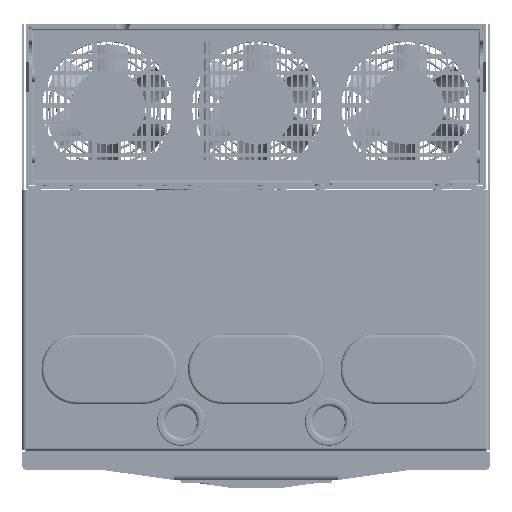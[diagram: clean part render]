
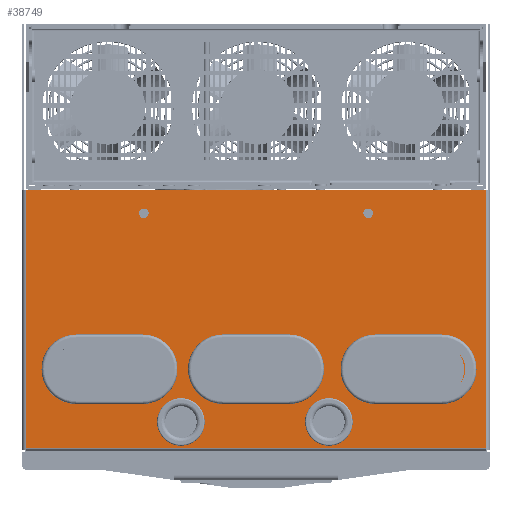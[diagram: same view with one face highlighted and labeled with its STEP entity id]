
A CAD part, front view. The second image highlights one B-rep face of the part: STEP entity #38749.
In plain terms, the highlighted planar face has unit normal (0, -1, 0) as drawn and (0, 0, -1) by its records, which use the part's own axes.
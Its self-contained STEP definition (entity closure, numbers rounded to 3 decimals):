
#33488=CARTESIAN_POINT('',(120.75,231.,-280.));
#33489=DIRECTION('',(0.,0.,-1.));
#33490=DIRECTION('',(0.,1.,0.));
#33491=AXIS2_PLACEMENT_3D('',#33488,#33489,#33490);
#33493=CARTESIAN_POINT('',(75.75,231.,-280.));
#33494=DIRECTION('',(0.,0.,-1.));
#33495=DIRECTION('',(0.,-1.,0.));
#33496=AXIS2_PLACEMENT_3D('',#33493,#33494,#33495);
#33498=CARTESIAN_POINT('',(21.75,231.,-280.));
#33499=DIRECTION('',(0.,0.,-1.));
#33500=DIRECTION('',(0.,1.,0.));
#33501=AXIS2_PLACEMENT_3D('',#33498,#33499,#33500);
#33503=CARTESIAN_POINT('',(-23.25,231.,-280.));
#33504=DIRECTION('',(0.,0.,-1.));
#33505=DIRECTION('',(0.,-1.,0.));
#33506=AXIS2_PLACEMENT_3D('',#33503,#33504,#33505);
#33508=CARTESIAN_POINT('',(-77.25,231.,-280.));
#33509=DIRECTION('',(0.,0.,-1.));
#33510=DIRECTION('',(0.,1.,0.));
#33511=AXIS2_PLACEMENT_3D('',#33508,#33509,#33510);
#33513=CARTESIAN_POINT('',(-122.25,231.,-280.));
#33514=DIRECTION('',(0.,0.,-1.));
#33515=DIRECTION('',(0.,-1.,0.));
#33516=AXIS2_PLACEMENT_3D('',#33513,#33514,#33515);
#33518=CARTESIAN_POINT('',(48.75,266.,-280.));
#33519=DIRECTION('',(0.,0.,-1.));
#33520=DIRECTION('',(1.,0.,0.));
#33521=AXIS2_PLACEMENT_3D('',#33518,#33519,#33520);
#33523=CARTESIAN_POINT('',(48.75,266.,-280.));
#33524=DIRECTION('',(0.,0.,-1.));
#33525=DIRECTION('',(-1.,0.,0.));
#33526=AXIS2_PLACEMENT_3D('',#33523,#33524,#33525);
#33528=CARTESIAN_POINT('',(-50.25,266.,-280.));
#33529=DIRECTION('',(0.,0.,-1.));
#33530=DIRECTION('',(1.,0.,0.));
#33531=AXIS2_PLACEMENT_3D('',#33528,#33529,#33530);
#33533=CARTESIAN_POINT('',(-50.25,266.,-280.));
#33534=DIRECTION('',(0.,0.,-1.));
#33535=DIRECTION('',(-1.,0.,0.));
#33536=AXIS2_PLACEMENT_3D('',#33533,#33534,#33535);
#33538=CARTESIAN_POINT('',(75.,126.5,-280.));
#33539=DIRECTION('',(0.,0.,-1.));
#33540=DIRECTION('',(1.,0.,0.));
#33541=AXIS2_PLACEMENT_3D('',#33538,#33539,#33540);
#33543=CARTESIAN_POINT('',(75.,126.5,-280.));
#33544=DIRECTION('',(0.,0.,-1.));
#33545=DIRECTION('',(-1.,0.,0.));
#33546=AXIS2_PLACEMENT_3D('',#33543,#33544,#33545);
#33548=CARTESIAN_POINT('',(-75.,126.5,-280.));
#33549=DIRECTION('',(0.,0.,-1.));
#33550=DIRECTION('',(1.,0.,0.));
#33551=AXIS2_PLACEMENT_3D('',#33548,#33549,#33550);
#33553=CARTESIAN_POINT('',(-75.,126.5,-280.));
#33554=DIRECTION('',(0.,0.,-1.));
#33555=DIRECTION('',(-1.,0.,0.));
#33556=AXIS2_PLACEMENT_3D('',#33553,#33554,#33555);
#33562=DIRECTION('',(1.,0.,0.));
#33563=VECTOR('',#33562,307.);
#33564=CARTESIAN_POINT('',(-153.5,283.3,-280.));
#33565=LINE('',#33564,#33563);
#33584=DIRECTION('',(0.,-1.,0.));
#33585=VECTOR('',#33584,172.3);
#33586=CARTESIAN_POINT('',(153.5,283.3,-280.));
#33587=LINE('',#33586,#33585);
#33614=DIRECTION('',(-1.,0.,0.));
#33615=VECTOR('',#33614,307.);
#33616=CARTESIAN_POINT('',(153.5,111.,-280.));
#33617=LINE('',#33616,#33615);
#33636=DIRECTION('',(0.,1.,0.));
#33637=VECTOR('',#33636,172.3);
#33638=CARTESIAN_POINT('',(-153.5,111.,-280.));
#33639=LINE('',#33638,#33637);
#37368=DIRECTION('',(-1.,0.,0.));
#37369=VECTOR('',#37368,45.);
#37370=CARTESIAN_POINT('',(120.75,249.5,-280.));
#37371=LINE('',#37370,#37369);
#37380=DIRECTION('',(1.,0.,0.));
#37381=VECTOR('',#37380,45.);
#37382=CARTESIAN_POINT('',(75.75,212.5,-280.));
#37383=LINE('',#37382,#37381);
#37392=DIRECTION('',(-1.,0.,0.));
#37393=VECTOR('',#37392,45.);
#37394=CARTESIAN_POINT('',(21.75,249.5,-280.));
#37395=LINE('',#37394,#37393);
#37404=DIRECTION('',(1.,0.,0.));
#37405=VECTOR('',#37404,45.);
#37406=CARTESIAN_POINT('',(-23.25,212.5,-280.));
#37407=LINE('',#37406,#37405);
#37416=DIRECTION('',(-1.,0.,0.));
#37417=VECTOR('',#37416,45.);
#37418=CARTESIAN_POINT('',(-77.25,249.5,-280.));
#37419=LINE('',#37418,#37417);
#37428=DIRECTION('',(1.,0.,0.));
#37429=VECTOR('',#37428,45.);
#37430=CARTESIAN_POINT('',(-122.25,212.5,-280.));
#37431=LINE('',#37430,#37429);
#37472=CARTESIAN_POINT('',(-153.5,283.3,-280.));
#37473=CARTESIAN_POINT('',(153.5,283.3,-280.));
#37474=VERTEX_POINT('',#37472);
#37475=VERTEX_POINT('',#37473);
#37476=CARTESIAN_POINT('',(-153.5,111.,-280.));
#37477=VERTEX_POINT('',#37476);
#37478=CARTESIAN_POINT('',(153.5,111.,-280.));
#37479=VERTEX_POINT('',#37478);
#37480=CARTESIAN_POINT('',(120.75,249.5,-280.));
#37481=CARTESIAN_POINT('',(75.75,249.5,-280.));
#37482=VERTEX_POINT('',#37480);
#37483=VERTEX_POINT('',#37481);
#37484=CARTESIAN_POINT('',(120.75,212.5,-280.));
#37485=VERTEX_POINT('',#37484);
#37486=CARTESIAN_POINT('',(75.75,212.5,-280.));
#37487=VERTEX_POINT('',#37486);
#37488=CARTESIAN_POINT('',(21.75,249.5,-280.));
#37489=CARTESIAN_POINT('',(-23.25,249.5,-280.));
#37490=VERTEX_POINT('',#37488);
#37491=VERTEX_POINT('',#37489);
#37492=CARTESIAN_POINT('',(21.75,212.5,-280.));
#37493=VERTEX_POINT('',#37492);
#37494=CARTESIAN_POINT('',(-23.25,212.5,-280.));
#37495=VERTEX_POINT('',#37494);
#37496=CARTESIAN_POINT('',(-77.25,249.5,-280.));
#37497=CARTESIAN_POINT('',(-122.25,249.5,-280.));
#37498=VERTEX_POINT('',#37496);
#37499=VERTEX_POINT('',#37497);
#37500=CARTESIAN_POINT('',(-77.25,212.5,-280.));
#37501=VERTEX_POINT('',#37500);
#37502=CARTESIAN_POINT('',(-122.25,212.5,-280.));
#37503=VERTEX_POINT('',#37502);
#37504=CARTESIAN_POINT('',(61.25,266.,-280.));
#37505=CARTESIAN_POINT('',(36.25,266.,-280.));
#37506=VERTEX_POINT('',#37504);
#37507=VERTEX_POINT('',#37505);
#37508=CARTESIAN_POINT('',(-37.75,266.,-280.));
#37509=CARTESIAN_POINT('',(-62.75,266.,-280.));
#37510=VERTEX_POINT('',#37508);
#37511=VERTEX_POINT('',#37509);
#37512=CARTESIAN_POINT('',(78.19,126.5,-280.));
#37513=CARTESIAN_POINT('',(71.81,126.5,-280.));
#37514=VERTEX_POINT('',#37512);
#37515=VERTEX_POINT('',#37513);
#37516=CARTESIAN_POINT('',(-71.81,126.5,-280.));
#37517=CARTESIAN_POINT('',(-78.19,126.5,-280.));
#37518=VERTEX_POINT('',#37516);
#37519=VERTEX_POINT('',#37517);
#38680=CARTESIAN_POINT('',(156.5,0.,-280.));
#38681=DIRECTION('',(0.,0.,-1.));
#38682=DIRECTION('',(-1.,0.,0.));
#38683=AXIS2_PLACEMENT_3D('',#38680,#38681,#38682);
#38684=PLANE('',#38683);
#38686=ORIENTED_EDGE('',*,*,#38685,.F.);
#38688=ORIENTED_EDGE('',*,*,#38687,.F.);
#38690=ORIENTED_EDGE('',*,*,#38689,.F.);
#38692=ORIENTED_EDGE('',*,*,#38691,.F.);
#38693=EDGE_LOOP('',(#38686,#38688,#38690,#38692));
#38694=FACE_OUTER_BOUND('',#38693,.F.);
#38696=ORIENTED_EDGE('',*,*,#38695,.F.);
#38698=ORIENTED_EDGE('',*,*,#38697,.T.);
#38700=ORIENTED_EDGE('',*,*,#38699,.F.);
#38702=ORIENTED_EDGE('',*,*,#38701,.T.);
#38703=EDGE_LOOP('',(#38696,#38698,#38700,#38702));
#38704=FACE_BOUND('',#38703,.F.);
#38706=ORIENTED_EDGE('',*,*,#38705,.F.);
#38708=ORIENTED_EDGE('',*,*,#38707,.T.);
#38710=ORIENTED_EDGE('',*,*,#38709,.F.);
#38712=ORIENTED_EDGE('',*,*,#38711,.T.);
#38713=EDGE_LOOP('',(#38706,#38708,#38710,#38712));
#38714=FACE_BOUND('',#38713,.F.);
#38716=ORIENTED_EDGE('',*,*,#38715,.F.);
#38718=ORIENTED_EDGE('',*,*,#38717,.T.);
#38720=ORIENTED_EDGE('',*,*,#38719,.F.);
#38722=ORIENTED_EDGE('',*,*,#38721,.T.);
#38723=EDGE_LOOP('',(#38716,#38718,#38720,#38722));
#38724=FACE_BOUND('',#38723,.F.);
#38726=ORIENTED_EDGE('',*,*,#38725,.T.);
#38728=ORIENTED_EDGE('',*,*,#38727,.T.);
#38729=EDGE_LOOP('',(#38726,#38728));
#38730=FACE_BOUND('',#38729,.F.);
#38732=ORIENTED_EDGE('',*,*,#38731,.T.);
#38734=ORIENTED_EDGE('',*,*,#38733,.T.);
#38735=EDGE_LOOP('',(#38732,#38734));
#38736=FACE_BOUND('',#38735,.F.);
#38738=ORIENTED_EDGE('',*,*,#38737,.T.);
#38740=ORIENTED_EDGE('',*,*,#38739,.T.);
#38741=EDGE_LOOP('',(#38738,#38740));
#38742=FACE_BOUND('',#38741,.F.);
#38744=ORIENTED_EDGE('',*,*,#38743,.T.);
#38746=ORIENTED_EDGE('',*,*,#38745,.T.);
#38747=EDGE_LOOP('',(#38744,#38746));
#38748=FACE_BOUND('',#38747,.F.);
#38749=ADVANCED_FACE('',(#38694,#38704,#38714,#38724,#38730,#38736,#38742,
#38748),#38684,.T.);
#33492=CIRCLE('',#33491,18.5);
#33497=CIRCLE('',#33496,18.5);
#33502=CIRCLE('',#33501,18.5);
#33507=CIRCLE('',#33506,18.5);
#33512=CIRCLE('',#33511,18.5);
#33517=CIRCLE('',#33516,18.5);
#33522=CIRCLE('',#33521,12.5);
#33527=CIRCLE('',#33526,12.5);
#33532=CIRCLE('',#33531,12.5);
#33537=CIRCLE('',#33536,12.5);
#33542=CIRCLE('',#33541,3.19);
#33547=CIRCLE('',#33546,3.19);
#33552=CIRCLE('',#33551,3.19);
#33557=CIRCLE('',#33556,3.19);
#38685=EDGE_CURVE('',#37474,#37475,#33565,.T.);
#38687=EDGE_CURVE('',#37477,#37474,#33639,.T.);
#38689=EDGE_CURVE('',#37479,#37477,#33617,.T.);
#38691=EDGE_CURVE('',#37475,#37479,#33587,.T.);
#38695=EDGE_CURVE('',#37482,#37483,#37371,.T.);
#38697=EDGE_CURVE('',#37482,#37485,#33492,.T.);
#38699=EDGE_CURVE('',#37487,#37485,#37383,.T.);
#38701=EDGE_CURVE('',#37487,#37483,#33497,.T.);
#38705=EDGE_CURVE('',#37490,#37491,#37395,.T.);
#38707=EDGE_CURVE('',#37490,#37493,#33502,.T.);
#38709=EDGE_CURVE('',#37495,#37493,#37407,.T.);
#38711=EDGE_CURVE('',#37495,#37491,#33507,.T.);
#38715=EDGE_CURVE('',#37498,#37499,#37419,.T.);
#38717=EDGE_CURVE('',#37498,#37501,#33512,.T.);
#38719=EDGE_CURVE('',#37503,#37501,#37431,.T.);
#38721=EDGE_CURVE('',#37503,#37499,#33517,.T.);
#38725=EDGE_CURVE('',#37506,#37507,#33522,.T.);
#38727=EDGE_CURVE('',#37507,#37506,#33527,.T.);
#38731=EDGE_CURVE('',#37510,#37511,#33532,.T.);
#38733=EDGE_CURVE('',#37511,#37510,#33537,.T.);
#38737=EDGE_CURVE('',#37514,#37515,#33542,.T.);
#38739=EDGE_CURVE('',#37515,#37514,#33547,.T.);
#38743=EDGE_CURVE('',#37518,#37519,#33552,.T.);
#38745=EDGE_CURVE('',#37519,#37518,#33557,.T.);
